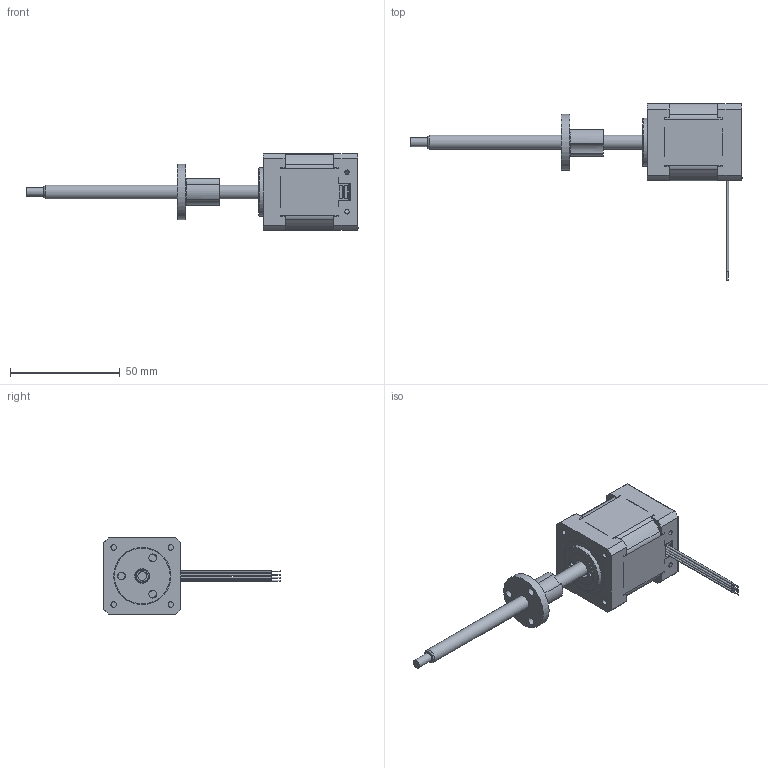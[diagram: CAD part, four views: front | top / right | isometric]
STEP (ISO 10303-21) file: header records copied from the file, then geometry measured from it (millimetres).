
FILE_DESCRIPTION( ('This file contains a STEP AP42 implementation' ,'as created by ZW3D STEP Interface translator.' ,'') ,'2;1' );
FILE_NAME( '35EC4X-XX-XXX.stp' ,'251231.1640 7', (''), ('ZWCAD Software Co.'), 'Version 1.0', 'ZW3D to STEP translator', '' );
FILE_SCHEMA(('AUTOMOTIVE_DESIGN { 1 0 10303 214 1 1 1 1 }'));
Length unit declared in the file: millimetre
Products named in the file (1): 0
Bounding box: 151.1 x 80.27 x 35 mm (x, y, z)
Volume: 26647 mm3; surface area: 27129.6 mm2
Topology: 7 solids, 11 shells, 805 faces, 2064 edges, 1244 vertices
Faces by surface type: plane 313, cylinder 253, torus 97, bspline 89, cone 45, sphere 8
Full cylindrical faces by diameter (mm): 0.5 x4, 1 x2, 1.2 x8, 2 x2, 2.05 x2, 2.5 x4, 3.2 x4, 3.4 x4, 3.56 x3, 4 x3, 4.2 x1, 4.22 x1, 5.5 x2, 5.8 x4, 6.35 x2, 6.78 x2, 8.5 x1, 9.2 x1, 11.5 x1, 16 x2, 20.5 x2, 22 x1, 25.4 x1, 26 x1
Entity records: 29195 total; most frequent: CARTESIAN_POINT 8699, DIRECTION 4238, ORIENTED_EDGE 4120, EDGE_CURVE 2064, AXIS2_PLACEMENT_3D 1697, VERTEX_POINT 1244, CIRCLE 991, EDGE_LOOP 898
